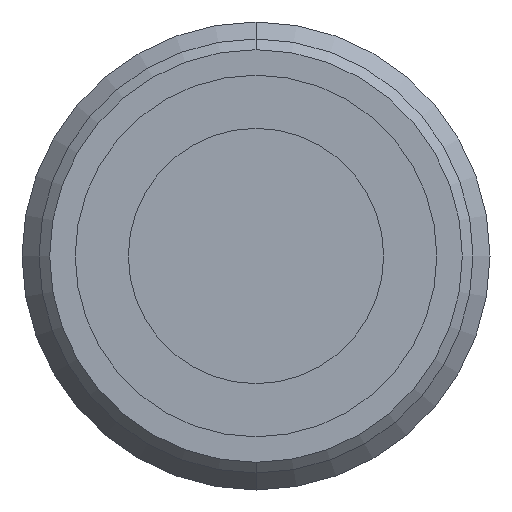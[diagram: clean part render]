
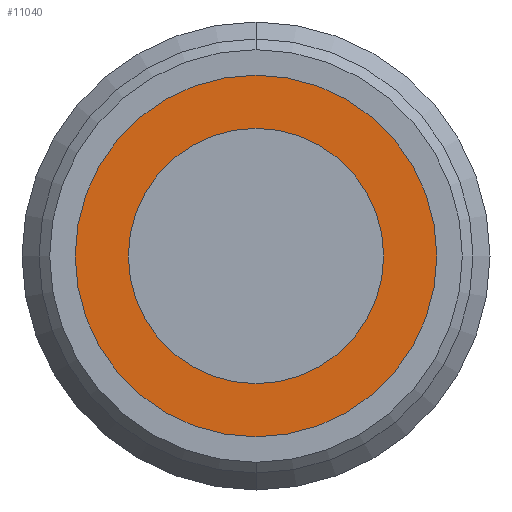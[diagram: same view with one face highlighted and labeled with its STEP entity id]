
A CAD part, front view. The second image highlights one B-rep face of the part: STEP entity #11040.
In plain terms, the highlighted planar face has unit normal (0, -1, 0).
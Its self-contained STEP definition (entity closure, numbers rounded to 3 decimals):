
#132 = ORIENTED_EDGE ( 'NONE', *, *, #9070, .F. ) ;
#311 = FACE_OUTER_BOUND ( 'NONE', #5542, .T. ) ;
#699 = DIRECTION ( 'NONE',  ( 0., 0., -1. ) ) ;
#1113 = DIRECTION ( 'NONE',  ( 0., -1., 0. ) ) ;
#1209 = DIRECTION ( 'NONE',  ( 0., 1., 0. ) ) ;
#1270 = CARTESIAN_POINT ( 'NONE',  ( 0., 8.101, 0. ) ) ;
#1343 = VERTEX_POINT ( 'NONE', #6333 ) ;
#1352 = CARTESIAN_POINT ( 'NONE',  ( 0., 8.101, 6. ) ) ;
#1597 = AXIS2_PLACEMENT_3D ( 'NONE', #3583, #10254, #4508 ) ;
#1753 = CIRCLE ( 'NONE', #4334, 8.5 ) ;
#2156 = CIRCLE ( 'NONE', #2398, 6. ) ;
#2226 = DIRECTION ( 'NONE',  ( 0., 0., -1. ) ) ;
#2398 = AXIS2_PLACEMENT_3D ( 'NONE', #6715, #1113, #7667 ) ;
#2493 = VERTEX_POINT ( 'NONE', #7377 ) ;
#2810 = VERTEX_POINT ( 'NONE', #3565 ) ;
#3048 = PLANE ( 'NONE',  #11940 ) ;
#3565 = CARTESIAN_POINT ( 'NONE',  ( 0., 8.101, -6. ) ) ;
#3583 = CARTESIAN_POINT ( 'NONE',  ( 0., 8.101, 0. ) ) ;
#4041 = CIRCLE ( 'NONE', #1597, 6. ) ;
#4334 = AXIS2_PLACEMENT_3D ( 'NONE', #1270, #7832, #2226 ) ;
#4508 = DIRECTION ( 'NONE',  ( 0., 0., -1. ) ) ;
#5429 = ORIENTED_EDGE ( 'NONE', *, *, #11837, .T. ) ;
#5542 = EDGE_LOOP ( 'NONE', ( #5429, #8354 ) ) ;
#5867 = CARTESIAN_POINT ( 'NONE',  ( -8.5, 8.101, 0. ) ) ;
#6299 = DIRECTION ( 'NONE',  ( 0., -1., 0. ) ) ;
#6333 = CARTESIAN_POINT ( 'NONE',  ( 0., 8.101, 8.5 ) ) ;
#6715 = CARTESIAN_POINT ( 'NONE',  ( 0., 8.101, 0. ) ) ;
#6937 = VERTEX_POINT ( 'NONE', #1352 ) ;
#7377 = CARTESIAN_POINT ( 'NONE',  ( 0., 8.101, -8.5 ) ) ;
#7667 = DIRECTION ( 'NONE',  ( 0., 0., -1. ) ) ;
#7757 = DIRECTION ( 'NONE',  ( 0., 0., 1. ) ) ;
#7832 = DIRECTION ( 'NONE',  ( 0., -1., 0. ) ) ;
#8043 = EDGE_CURVE ( 'NONE', #2810, #6937, #4041, .T. ) ;
#8354 = ORIENTED_EDGE ( 'NONE', *, *, #9979, .T. ) ;
#8757 = EDGE_LOOP ( 'NONE', ( #11327, #132 ) ) ;
#9070 = EDGE_CURVE ( 'NONE', #6937, #2810, #2156, .T. ) ;
#9979 = EDGE_CURVE ( 'NONE', #1343, #2493, #11383, .T. ) ;
#10061 = FACE_BOUND ( 'NONE', #8757, .T. ) ;
#10254 = DIRECTION ( 'NONE',  ( 0., -1., 0. ) ) ;
#11040 = ADVANCED_FACE ( 'NONE', ( #10061, #311 ), #3048, .F. ) ;
#11327 = ORIENTED_EDGE ( 'NONE', *, *, #8043, .F. ) ;
#11383 = CIRCLE ( 'NONE', #11768, 8.5 ) ;
#11768 = AXIS2_PLACEMENT_3D ( 'NONE', #12132, #6299, #699 ) ;
#11837 = EDGE_CURVE ( 'NONE', #2493, #1343, #1753, .T. ) ;
#11940 = AXIS2_PLACEMENT_3D ( 'NONE', #5867, #1209, #7757 ) ;
#12132 = CARTESIAN_POINT ( 'NONE',  ( 0., 8.101, 0. ) ) ;
